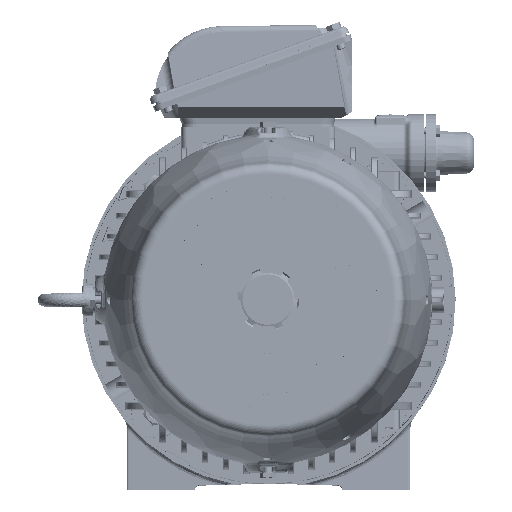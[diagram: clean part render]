
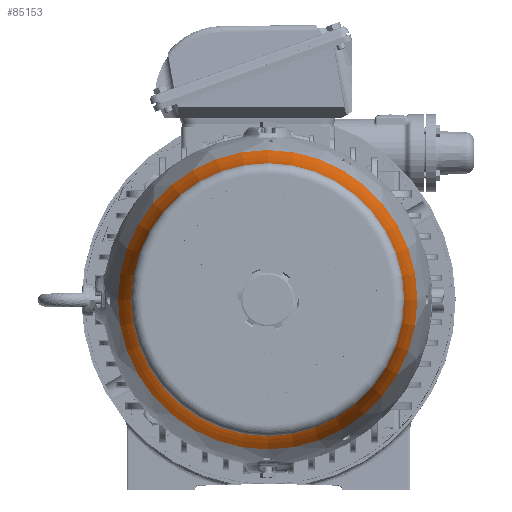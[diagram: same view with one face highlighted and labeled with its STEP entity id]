
A CAD part, top view. The second image highlights one B-rep face of the part: STEP entity #85153.
In plain terms, the highlighted toroidal (fillet/blend) face has major radius 308.616 mm and minor radius 180 mm.
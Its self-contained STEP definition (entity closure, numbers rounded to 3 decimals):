
#1888=TOROIDAL_SURFACE('',#91376,308.617,180.);
#16066=FACE_OUTER_BOUND('',#21105,.T.);
#21105=EDGE_LOOP('',(#58205,#58206,#58207,#58208,#58209,#58210));
#26781=CIRCLE('',#91357,142.487);
#26782=CIRCLE('',#91358,142.487);
#26800=CIRCLE('',#91377,180.);
#26801=CIRCLE('',#91378,129.927);
#26802=CIRCLE('',#91379,129.927);
#35039=VERTEX_POINT('',#132964);
#35040=VERTEX_POINT('',#132968);
#35074=VERTEX_POINT('',#133258);
#35075=VERTEX_POINT('',#133260);
#43922=EDGE_CURVE('',#35039,#35040,#26781,.T.);
#43923=EDGE_CURVE('',#35040,#35039,#26782,.T.);
#43958=EDGE_CURVE('',#35039,#35074,#26800,.T.);
#43959=EDGE_CURVE('',#35074,#35075,#26801,.T.);
#43960=EDGE_CURVE('',#35075,#35074,#26802,.T.);
#58205=ORIENTED_EDGE('',*,*,#43923,.F.);
#58206=ORIENTED_EDGE('',*,*,#43922,.F.);
#58207=ORIENTED_EDGE('',*,*,#43958,.T.);
#58208=ORIENTED_EDGE('',*,*,#43959,.T.);
#58209=ORIENTED_EDGE('',*,*,#43960,.T.);
#58210=ORIENTED_EDGE('',*,*,#43958,.F.);
#85153=ADVANCED_FACE('',(#16066),#1888,.F.);
#91357=AXIS2_PLACEMENT_3D('',#132969,#102919,#102920);
#91358=AXIS2_PLACEMENT_3D('',#132970,#102921,#102922);
#91376=AXIS2_PLACEMENT_3D('',#133257,#102957,#102958);
#91377=AXIS2_PLACEMENT_3D('',#133259,#102959,#102960);
#91378=AXIS2_PLACEMENT_3D('',#133261,#102961,#102962);
#91379=AXIS2_PLACEMENT_3D('',#133262,#102963,#102964);
#102919=DIRECTION('center_axis',(0.,0.,
-1.));
#102920=DIRECTION('ref_axis',(-1.,0.,0.));
#102921=DIRECTION('center_axis',(0.,0.,
-1.));
#102922=DIRECTION('ref_axis',(-1.,0.,0.));
#102957=DIRECTION('center_axis',(0.,0.,
-1.));
#102958=DIRECTION('ref_axis',(-1.,0.,0.));
#102959=DIRECTION('center_axis',(0.,1.,0.));
#102960=DIRECTION('ref_axis',(1.,0.,0.));
#102961=DIRECTION('center_axis',(0.,0.,
-1.));
#102962=DIRECTION('ref_axis',(-1.,0.,0.));
#102963=DIRECTION('center_axis',(0.,0.,
-1.));
#102964=DIRECTION('ref_axis',(-1.,0.,0.));
#132964=CARTESIAN_POINT('',(141.623,0.,567.399));
#132968=CARTESIAN_POINT('',(-143.35,0.,567.399));
#132969=CARTESIAN_POINT('Origin',(-0.863,0.,
567.399));
#132970=CARTESIAN_POINT('Origin',(-0.863,0.,
567.399));
#133257=CARTESIAN_POINT('Origin',(-0.863,0.,
636.687));
#133258=CARTESIAN_POINT('',(129.064,0.,615.005));
#133259=CARTESIAN_POINT('Origin',(307.753,0.,
636.687));
#133260=CARTESIAN_POINT('',(-130.791,0.,615.005));
#133261=CARTESIAN_POINT('Origin',(-0.863,0.,
615.005));
#133262=CARTESIAN_POINT('Origin',(-0.863,0.,
615.005));
